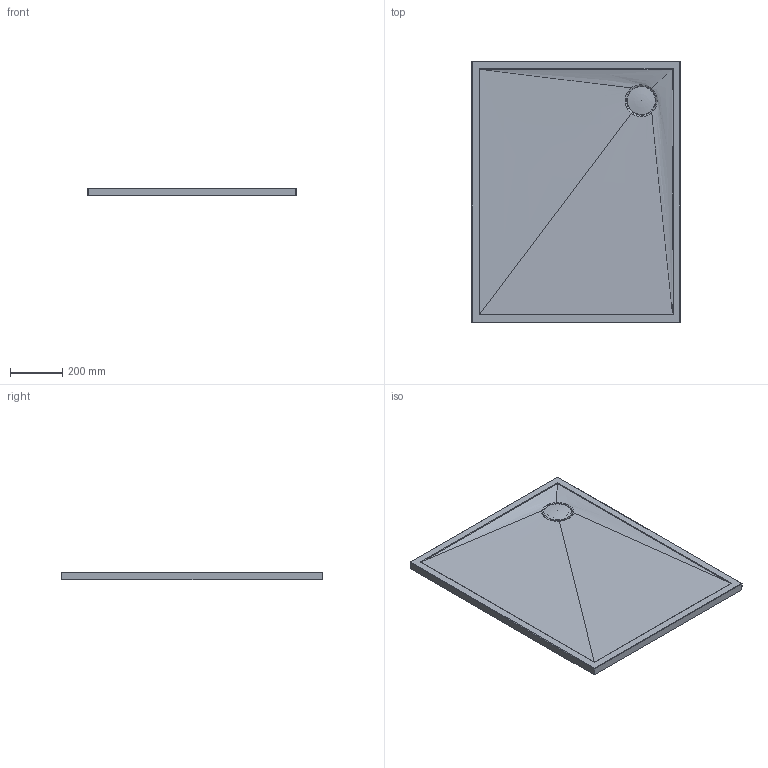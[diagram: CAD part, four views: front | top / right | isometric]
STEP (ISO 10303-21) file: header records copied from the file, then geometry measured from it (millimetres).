
FILE_DESCRIPTION(/* description */ (''),/* implementation_level */ '2;1');
FILE_NAME(/* name */ 'c:\worker\convert-fusion-r02\tmp\job-1\40\output\files\93bca361-116d-4aab-afee-a4329f48f9c6\576801d4-c269-43fa-9215-936c6e53a6bb.stp',/* time_stamp */ '2020-03-20T10:48:13+00:00',/* author */ (''),/* organization */ (''),/* preprocessor_version */ 'ST-DEVELOPER v18',/* originating_system */ 'Autodesk Translation Framework v8.12.0.6',/* authorisation */ '');
FILE_SCHEMA (('AUTOMOTIVE_DESIGN { 1 0 10303 214 3 1 1 }'));
Length unit declared in the file: millimetre
Products named in the file (1): 80x100
Bounding box: 800 x 1000 x 30 mm (x, y, z)
Volume: 19979391.8 mm3; surface area: 1718395 mm2
Topology: 2 solids, 2 shells, 34 faces, 89 edges, 59 vertices
Faces by surface type: cylinder 10, bspline 9, plane 8, sphere 4, torus 2, cone 1
Full cylindrical faces by diameter (mm): 80.658 x1, 90 x1
Entity records: 1358 total; most frequent: CARTESIAN_POINT 511, ORIENTED_EDGE 176, DIRECTION 161, EDGE_CURVE 88, AXIS2_PLACEMENT_3D 67, VERTEX_POINT 59, CIRCLE 41, EDGE_LOOP 37
